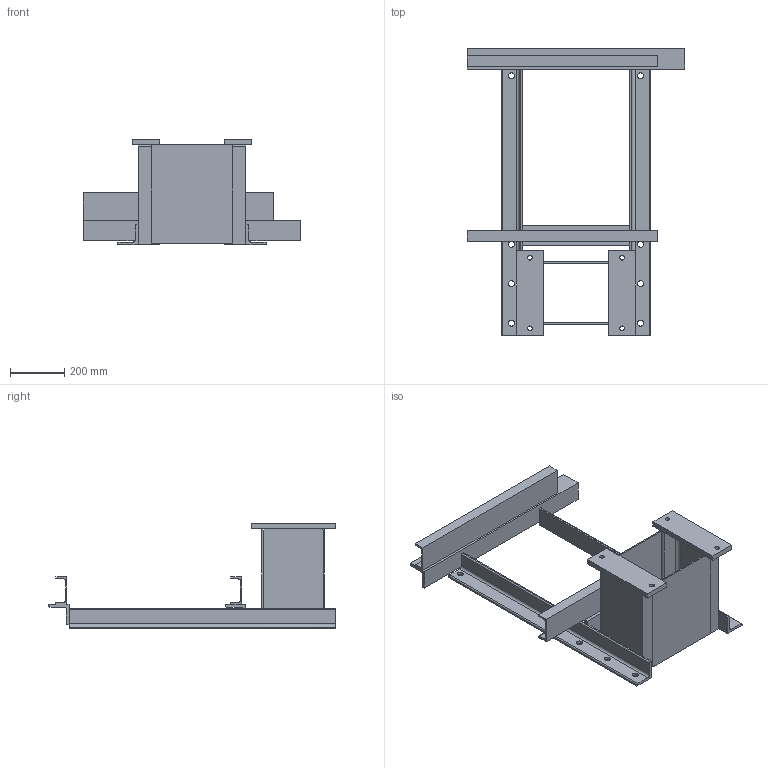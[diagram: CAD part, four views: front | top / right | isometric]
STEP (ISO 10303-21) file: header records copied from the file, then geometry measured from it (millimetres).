
FILE_DESCRIPTION(/* description */ (''),/* implementation_level */ '2;1');
FILE_NAME(/* name */ 'K:\NEMANJA\0700-6\CABLE REEL PART\0700-6\11 DMF\STEP\DMF- GB12-0610KV.stp',/* time_stamp */ '2017-11-30T18:05:34+01:00',/* author */ ('zeldjo01'),/* organization */ ('Hillmar Industries Ltd.'),/* preprocessor_version */ 'ST-DEVELOPER v16.1',/* originating_system */ 'Autodesk Inventor 2016',/* authorisation */ '');
FILE_SCHEMA (('AUTOMOTIVE_DESIGN { 1 0 10303 214 3 1 1 }'));
Length unit declared in the file: millimetre
Products named in the file (1): DMF- GB12-0610KV
Bounding box: 800 x 1055 x 389 mm (x, y, z)
Volume: 10914881 mm3; surface area: 2314337.2 mm2
Topology: 1 solids, 1 shells, 146 faces, 446 edges, 288 vertices
Faces by surface type: plane 106, cylinder 40
Full cylindrical faces by diameter (mm): 17.294 x4, 22 x8
Entity records: 5023 total; most frequent: CARTESIAN_POINT 845, ORIENTED_EDGE 844, DIRECTION 808, EDGE_CURVE 422, LINE 330, VECTOR 330, VERTEX_POINT 276, AXIS2_PLACEMENT_3D 239
